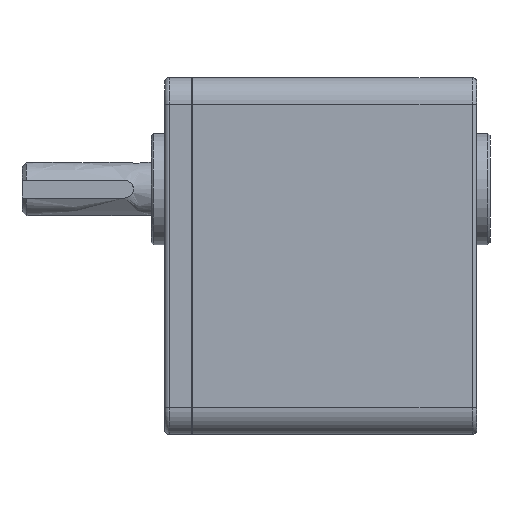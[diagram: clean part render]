
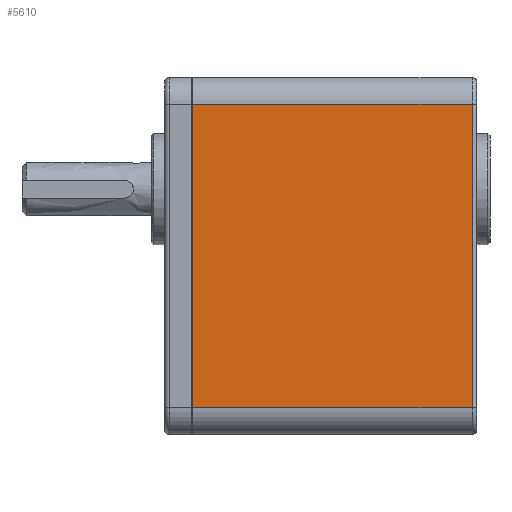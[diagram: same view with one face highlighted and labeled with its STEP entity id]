
A CAD part, front view. The second image highlights one B-rep face of the part: STEP entity #5610.
In plain terms, the highlighted planar face has unit normal (0, -1, 0).
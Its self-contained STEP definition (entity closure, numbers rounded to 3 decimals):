
#4938=CARTESIAN_POINT('',(-43.3,-36.0,-33.991));
#4939=VERTEX_POINT('',#4938);
#4947=CARTESIAN_POINT('',(-43.3,-36.0,34.009));
#4948=VERTEX_POINT('',#4947);
#4949=CARTESIAN_POINT('',(-43.3,-36.0,34.009));
#4950=DIRECTION('',(0.0,0.0,-1.0));
#4951=VECTOR('',#4950,68.);
#4952=LINE('',#4949,#4951);
#4953=EDGE_CURVE('',#4948,#4939,#4952,.T.);
#5567=CARTESIAN_POINT('',(19.5,-36.0,34.009));
#5568=VERTEX_POINT('',#5567);
#5578=CARTESIAN_POINT('',(-43.3,-36.0,34.009));
#5579=DIRECTION('',(1.0,0.0,0.0));
#5580=VECTOR('',#5579,62.8);
#5581=LINE('',#5578,#5580);
#5582=EDGE_CURVE('',#4948,#5568,#5581,.T.);
#5587=CARTESIAN_POINT('',(-14.5,-36.0,0.009));
#5588=DIRECTION('',(0.0,1.0,0.0));
#5589=DIRECTION('',(0.0,0.0,1.0));
#5590=AXIS2_PLACEMENT_3D('',#5587,#5588,#5589);
#5591=PLANE('',#5590);
#5592=CARTESIAN_POINT('',(19.5,-36.0,-33.991));
#5593=VERTEX_POINT('',#5592);
#5594=CARTESIAN_POINT('',(19.5,-36.0,34.009));
#5595=DIRECTION('',(0.0,0.0,-1.0));
#5596=VECTOR('',#5595,68.0);
#5597=LINE('',#5594,#5596);
#5598=EDGE_CURVE('',#5568,#5593,#5597,.T.);
#5599=ORIENTED_EDGE('',*,*,#5598,.F.);
#5600=ORIENTED_EDGE('',*,*,#5582,.F.);
#5601=ORIENTED_EDGE('',*,*,#4953,.T.);
#5602=CARTESIAN_POINT('',(19.5,-36.0,-33.991));
#5603=DIRECTION('',(-1.0,0.0,0.0));
#5604=VECTOR('',#5603,62.8);
#5605=LINE('',#5602,#5604);
#5606=EDGE_CURVE('',#5593,#4939,#5605,.T.);
#5607=ORIENTED_EDGE('',*,*,#5606,.F.);
#5608=EDGE_LOOP('',(#5599,#5600,#5601,#5607));
#5609=FACE_OUTER_BOUND('',#5608,.T.);
#5610=ADVANCED_FACE('',(#5609),#5591,.F.);
